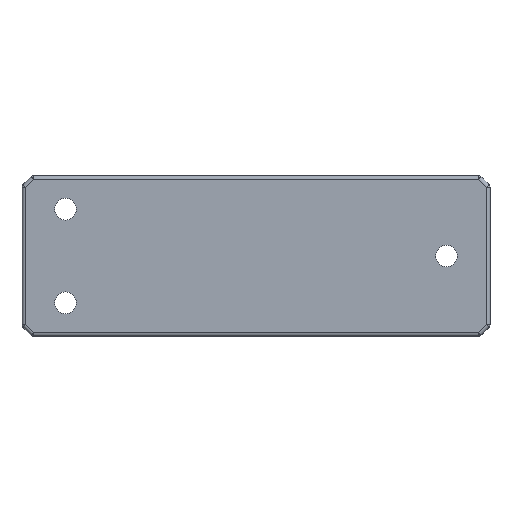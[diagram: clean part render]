
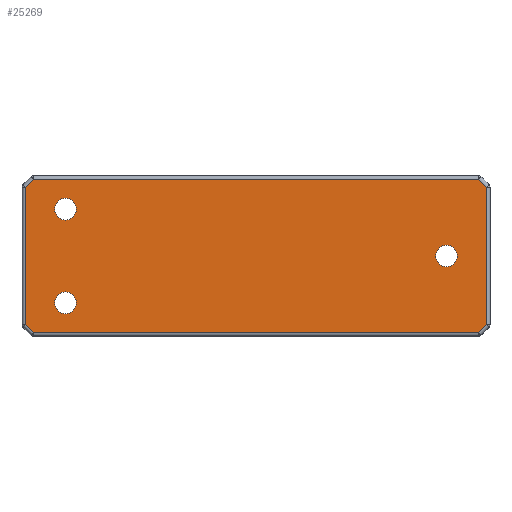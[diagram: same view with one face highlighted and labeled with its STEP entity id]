
A CAD part, front view. The second image highlights one B-rep face of the part: STEP entity #25269.
In plain terms, the highlighted planar face has unit normal (0, -1, 0).
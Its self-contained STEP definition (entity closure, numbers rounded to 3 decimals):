
#4556 = CARTESIAN_POINT ( 'NONE',  ( -62., -52., 20.586 ) ) ;
#4610 = CARTESIAN_POINT ( 'NONE',  ( -62., -52., -20.586 ) ) ;
#4675 = CARTESIAN_POINT ( 'NONE',  ( -50., -52., 17.25 ) ) ;
#4683 = CARTESIAN_POINT ( 'NONE',  ( 64., -52., -3.25 ) ) ;
#4684 = CARTESIAN_POINT ( 'NONE',  ( 64., -52., 3.25 ) ) ;
#4687 = CARTESIAN_POINT ( 'NONE',  ( -50., -52., 10.75 ) ) ;
#4690 = CARTESIAN_POINT ( 'NONE',  ( -50., -52., -17.25 ) ) ;
#4692 = CARTESIAN_POINT ( 'NONE',  ( -59.586, -52., 23. ) ) ;
#4694 = CARTESIAN_POINT ( 'NONE',  ( 73.586, -52., 23. ) ) ;
#4707 = CARTESIAN_POINT ( 'NONE',  ( -50., -52., -10.75 ) ) ;
#4709 = CARTESIAN_POINT ( 'NONE',  ( 76., -52., -20.586 ) ) ;
#4712 = CARTESIAN_POINT ( 'NONE',  ( 76., -52., 20.586 ) ) ;
#4713 = CARTESIAN_POINT ( 'NONE',  ( -59.586, -52., -23. ) ) ;
#4720 = CARTESIAN_POINT ( 'NONE',  ( 73.586, -52., -23. ) ) ;
#4774 = CARTESIAN_POINT ( 'NONE',  ( 64., -52., 0. ) ) ;
#4775 = DIRECTION ( 'NONE',  ( 0., 1., 0. ) ) ;
#4776 = DIRECTION ( 'NONE',  ( 0., 0., 1. ) ) ;
#4777 = CARTESIAN_POINT ( 'NONE',  ( -62., -52., -20.586 ) ) ;
#4778 = DIRECTION ( 'NONE',  ( 0.707, 0., -0.707 ) ) ;
#4779 = CARTESIAN_POINT ( 'NONE',  ( 77., -52., -23. ) ) ;
#4780 = DIRECTION ( 'NONE',  ( 1., 0., 0. ) ) ;
#4781 = CARTESIAN_POINT ( 'NONE',  ( 73.586, -52., -23. ) ) ;
#4782 = DIRECTION ( 'NONE',  ( 0.707, 0., 0.707 ) ) ;
#4783 = CARTESIAN_POINT ( 'NONE',  ( 76., -52., -64.883 ) ) ;
#4784 = DIRECTION ( 'NONE',  ( 0., 0., 1. ) ) ;
#4785 = CARTESIAN_POINT ( 'NONE',  ( 76., -52., 20.586 ) ) ;
#4786 = DIRECTION ( 'NONE',  ( -0.707, 0., 0.707 ) ) ;
#4787 = CARTESIAN_POINT ( 'NONE',  ( 77., -52., 23. ) ) ;
#4788 = DIRECTION ( 'NONE',  ( -1., 0., 0. ) ) ;
#4789 = CARTESIAN_POINT ( 'NONE',  ( -59.586, -52., 23. ) ) ;
#4790 = DIRECTION ( 'NONE',  ( -0.707, 0., -0.707 ) ) ;
#6717 = LINE ( 'NONE', #4777, #93273 ) ;
#6718 = LINE ( 'NONE', #4779, #92826 ) ;
#6719 = LINE ( 'NONE', #4781, #92900 ) ;
#6720 = LINE ( 'NONE', #4783, #92972 ) ;
#6721 = LINE ( 'NONE', #4785, #92819 ) ;
#6722 = LINE ( 'NONE', #4787, #92479 ) ;
#6723 = LINE ( 'NONE', #4789, #92912 ) ;
#7042 = LINE ( 'NONE', #79680, #51491 ) ;
#15530 = EDGE_CURVE ( 'NONE', #20988, #21005, #92753, .T. ) ;
#15539 = EDGE_CURVE ( 'NONE', #20985, #20973, #92675, .T. ) ;
#15544 = EDGE_CURVE ( 'NONE', #20981, #20982, #92691, .T. ) ;
#19311 = EDGE_LOOP ( 'NONE', ( #19441, #19442 ) ) ;
#19313 = EDGE_LOOP ( 'NONE', ( #19445, #19446, #19447, #19440, #19448, #19449, #19450, #19451 ) ) ;
#19314 = EDGE_LOOP ( 'NONE', ( #19443, #19444 ) ) ;
#19321 = EDGE_LOOP ( 'NONE', ( #19452, #19453 ) ) ;
#19440 = ORIENTED_EDGE ( 'NONE', *, *, #21614, .T. ) ;
#19441 = ORIENTED_EDGE ( 'NONE', *, *, #24846, .T. ) ;
#19442 = ORIENTED_EDGE ( 'NONE', *, *, #15530, .T. ) ;
#19443 = ORIENTED_EDGE ( 'NONE', *, *, #24845, .T. ) ;
#19444 = ORIENTED_EDGE ( 'NONE', *, *, #15539, .T. ) ;
#19445 = ORIENTED_EDGE ( 'NONE', *, *, #21626, .T. ) ;
#19446 = ORIENTED_EDGE ( 'NONE', *, *, #24844, .T. ) ;
#19447 = ORIENTED_EDGE ( 'NONE', *, *, #21611, .T. ) ;
#19448 = ORIENTED_EDGE ( 'NONE', *, *, #21616, .T. ) ;
#19449 = ORIENTED_EDGE ( 'NONE', *, *, #21619, .T. ) ;
#19450 = ORIENTED_EDGE ( 'NONE', *, *, #21621, .T. ) ;
#19451 = ORIENTED_EDGE ( 'NONE', *, *, #21624, .T. ) ;
#19452 = ORIENTED_EDGE ( 'NONE', *, *, #21609, .T. ) ;
#19453 = ORIENTED_EDGE ( 'NONE', *, *, #15544, .T. ) ;
#20854 = VERTEX_POINT ( 'NONE', #4556 ) ;
#20908 = VERTEX_POINT ( 'NONE', #4610 ) ;
#20973 = VERTEX_POINT ( 'NONE', #4675 ) ;
#20981 = VERTEX_POINT ( 'NONE', #4683 ) ;
#20982 = VERTEX_POINT ( 'NONE', #4684 ) ;
#20985 = VERTEX_POINT ( 'NONE', #4687 ) ;
#20988 = VERTEX_POINT ( 'NONE', #4690 ) ;
#20990 = VERTEX_POINT ( 'NONE', #4692 ) ;
#20992 = VERTEX_POINT ( 'NONE', #4694 ) ;
#21005 = VERTEX_POINT ( 'NONE', #4707 ) ;
#21007 = VERTEX_POINT ( 'NONE', #4709 ) ;
#21010 = VERTEX_POINT ( 'NONE', #4712 ) ;
#21011 = VERTEX_POINT ( 'NONE', #4713 ) ;
#21018 = VERTEX_POINT ( 'NONE', #4720 ) ;
#21609 = EDGE_CURVE ( 'NONE', #20982, #20981, #92933, .T. ) ;
#21611 = EDGE_CURVE ( 'NONE', #20908, #21011, #6717, .T. ) ;
#21614 = EDGE_CURVE ( 'NONE', #21011, #21018, #6718, .T. ) ;
#21616 = EDGE_CURVE ( 'NONE', #21018, #21007, #6719, .T. ) ;
#21619 = EDGE_CURVE ( 'NONE', #21007, #21010, #6720, .T. ) ;
#21621 = EDGE_CURVE ( 'NONE', #21010, #20992, #6721, .T. ) ;
#21624 = EDGE_CURVE ( 'NONE', #20992, #20990, #6722, .T. ) ;
#21626 = EDGE_CURVE ( 'NONE', #20990, #20854, #6723, .T. ) ;
#24844 = EDGE_CURVE ( 'NONE', #20854, #20908, #7042, .T. ) ;
#24845 = EDGE_CURVE ( 'NONE', #20973, #20985, #51478, .T. ) ;
#24846 = EDGE_CURVE ( 'NONE', #21005, #20988, #51487, .T. ) ;
#25269 = ADVANCED_FACE ( 'NONE', ( #49925, #49926, #49927, #49928 ), #61588, .T. ) ;
#26538 = DIRECTION ( 'NONE',  ( 0., 1., 0. ) ) ;
#26551 = DIRECTION ( 'NONE',  ( 0., 1., 0. ) ) ;
#26553 = CARTESIAN_POINT ( 'NONE',  ( -50., -52., 14. ) ) ;
#26554 = DIRECTION ( 'NONE',  ( 0., 0., 1. ) ) ;
#26557 = CARTESIAN_POINT ( 'NONE',  ( -50., -52., -14. ) ) ;
#26565 = DIRECTION ( 'NONE',  ( 0., 0., 1. ) ) ;
#26572 = DIRECTION ( 'NONE',  ( 0., 0., 1. ) ) ;
#26582 = DIRECTION ( 'NONE',  ( 0., 1., 0. ) ) ;
#26604 = CARTESIAN_POINT ( 'NONE',  ( 64., -52., 0. ) ) ;
#49925 = FACE_BOUND ( 'NONE', #19311, .T. ) ;
#49926 = FACE_BOUND ( 'NONE', #19314, .T. ) ;
#49927 = FACE_OUTER_BOUND ( 'NONE', #19313, .T. ) ;
#49928 = FACE_BOUND ( 'NONE', #19321, .T. ) ;
#51478 = CIRCLE ( 'NONE', #51494, 3.25 ) ;
#51487 = CIRCLE ( 'NONE', #51497, 3.25 ) ;
#51491 = VECTOR ( 'NONE', #79681, 1000. ) ;
#51494 = AXIS2_PLACEMENT_3D ( 'NONE', #79682, #79683, #79684 ) ;
#51497 = AXIS2_PLACEMENT_3D ( 'NONE', #79685, #79686, #79687 ) ;
#51858 = AXIS2_PLACEMENT_3D ( 'NONE', #61589, #61590, #61591 ) ;
#61588 = PLANE ( 'NONE',  #51858 ) ;
#61589 = CARTESIAN_POINT ( 'NONE',  ( 77., -52., -64.883 ) ) ;
#61590 = DIRECTION ( 'NONE',  ( 0., -1., 0. ) ) ;
#61591 = DIRECTION ( 'NONE',  ( 0., 0., -1. ) ) ;
#79680 = CARTESIAN_POINT ( 'NONE',  ( -62., -52., -64.883 ) ) ;
#79681 = DIRECTION ( 'NONE',  ( 0., 0., -1. ) ) ;
#79682 = CARTESIAN_POINT ( 'NONE',  ( -50., -52., 14. ) ) ;
#79683 = DIRECTION ( 'NONE',  ( 0., 1., 0. ) ) ;
#79684 = DIRECTION ( 'NONE',  ( 0., 0., 1. ) ) ;
#79685 = CARTESIAN_POINT ( 'NONE',  ( -50., -52., -14. ) ) ;
#79686 = DIRECTION ( 'NONE',  ( 0., 1., 0. ) ) ;
#79687 = DIRECTION ( 'NONE',  ( 0., 0., 1. ) ) ;
#92479 = VECTOR ( 'NONE', #4788, 1000. ) ;
#92669 = AXIS2_PLACEMENT_3D ( 'NONE', #26553, #26538, #26565 ) ;
#92675 = CIRCLE ( 'NONE', #92669, 3.25 ) ;
#92691 = CIRCLE ( 'NONE', #92703, 3.25 ) ;
#92703 = AXIS2_PLACEMENT_3D ( 'NONE', #26604, #26582, #26554 ) ;
#92753 = CIRCLE ( 'NONE', #92755, 3.25 ) ;
#92755 = AXIS2_PLACEMENT_3D ( 'NONE', #26557, #26551, #26572 ) ;
#92819 = VECTOR ( 'NONE', #4786, 1000. ) ;
#92826 = VECTOR ( 'NONE', #4780, 1000. ) ;
#92900 = VECTOR ( 'NONE', #4782, 1000. ) ;
#92912 = VECTOR ( 'NONE', #4790, 1000. ) ;
#92933 = CIRCLE ( 'NONE', #92962, 3.25 ) ;
#92962 = AXIS2_PLACEMENT_3D ( 'NONE', #4774, #4775, #4776 ) ;
#92972 = VECTOR ( 'NONE', #4784, 1000. ) ;
#93273 = VECTOR ( 'NONE', #4778, 1000. ) ;
